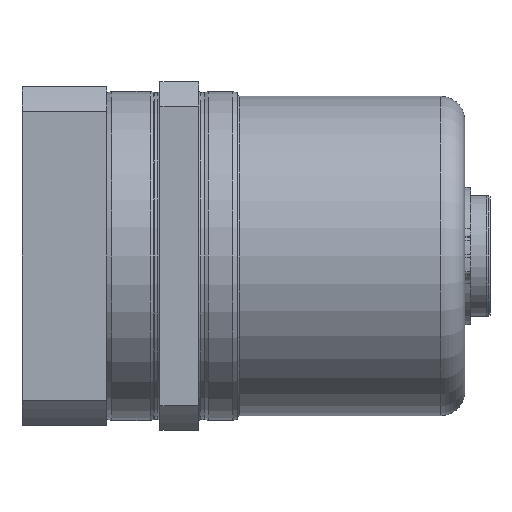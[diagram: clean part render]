
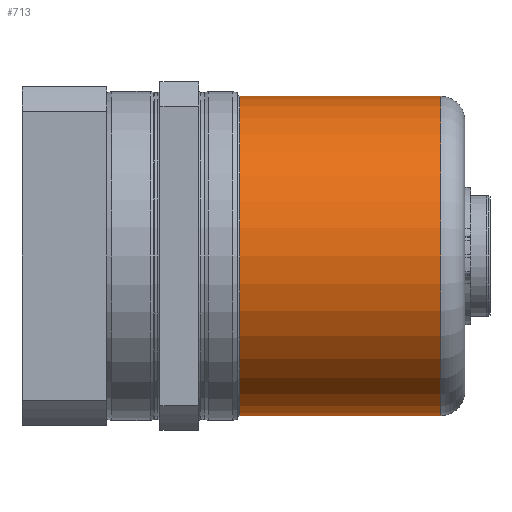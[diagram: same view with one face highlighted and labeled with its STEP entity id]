
A CAD part, front view. The second image highlights one B-rep face of the part: STEP entity #713.
In plain terms, the highlighted cylindrical face has radius 33 mm (diameter 66 mm), a partial arc.
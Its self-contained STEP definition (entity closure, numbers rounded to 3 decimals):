
#289 = CARTESIAN_POINT ( 'NONE',  ( 27., 0., 0. ) ) ;
#713 = ADVANCED_FACE ( 'NONE', ( #11537 ), #11611, .T. ) ;
#872 = LINE ( 'NONE', #1001, #12525 ) ;
#1001 = CARTESIAN_POINT ( 'NONE',  ( 27., 0., -33. ) ) ;
#1092 = EDGE_CURVE ( 'NONE', #7824, #3430, #872, .T. ) ;
#1252 = ORIENTED_EDGE ( 'NONE', *, *, #7432, .T. ) ;
#1569 = VERTEX_POINT ( 'NONE', #12391 ) ;
#2462 = ORIENTED_EDGE ( 'NONE', *, *, #1092, .T. ) ;
#3284 = DIRECTION ( 'NONE',  ( 1., 0., 0. ) ) ;
#3430 = VERTEX_POINT ( 'NONE', #4127 ) ;
#3984 = EDGE_CURVE ( 'NONE', #1569, #11712, #5157, .T. ) ;
#4101 = CARTESIAN_POINT ( 'NONE',  ( 27.5, 0., 0. ) ) ;
#4127 = CARTESIAN_POINT ( 'NONE',  ( 69., 0., -33. ) ) ;
#4190 = EDGE_LOOP ( 'NONE', ( #8359, #7603, #2462, #1252 ) ) ;
#4226 = DIRECTION ( 'NONE',  ( 1., 0., 0. ) ) ;
#5157 = LINE ( 'NONE', #9095, #6005 ) ;
#5676 = DIRECTION ( 'NONE',  ( 1., 0., 0. ) ) ;
#5703 = AXIS2_PLACEMENT_3D ( 'NONE', #4101, #4226, #5916 ) ;
#5778 = AXIS2_PLACEMENT_3D ( 'NONE', #289, #3284, #6989 ) ;
#5916 = DIRECTION ( 'NONE',  ( 0., 0., -1. ) ) ;
#6005 = VECTOR ( 'NONE', #8899, 1000. ) ;
#6459 = CARTESIAN_POINT ( 'NONE',  ( 27.5, 0., -33. ) ) ;
#6989 = DIRECTION ( 'NONE',  ( 0., 0., -1. ) ) ;
#7432 = EDGE_CURVE ( 'NONE', #3430, #11712, #12214, .T. ) ;
#7603 = ORIENTED_EDGE ( 'NONE', *, *, #7693, .T. ) ;
#7693 = EDGE_CURVE ( 'NONE', #1569, #7824, #8558, .T. ) ;
#7824 = VERTEX_POINT ( 'NONE', #6459 ) ;
#7897 = CARTESIAN_POINT ( 'NONE',  ( 69., 0., 33. ) ) ;
#8359 = ORIENTED_EDGE ( 'NONE', *, *, #3984, .F. ) ;
#8558 = CIRCLE ( 'NONE', #5703, 33. ) ;
#8899 = DIRECTION ( 'NONE',  ( 1., 0., 0. ) ) ;
#9095 = CARTESIAN_POINT ( 'NONE',  ( 27., 0., 33. ) ) ;
#9928 = DIRECTION ( 'NONE',  ( -1., 0., 0. ) ) ;
#11537 = FACE_OUTER_BOUND ( 'NONE', #4190, .T. ) ;
#11610 = AXIS2_PLACEMENT_3D ( 'NONE', #12046, #9928, #11838 ) ;
#11611 = CYLINDRICAL_SURFACE ( 'NONE', #5778, 33. ) ;
#11712 = VERTEX_POINT ( 'NONE', #7897 ) ;
#11838 = DIRECTION ( 'NONE',  ( 0., 0., -1. ) ) ;
#12046 = CARTESIAN_POINT ( 'NONE',  ( 69., 0., 0. ) ) ;
#12214 = CIRCLE ( 'NONE', #11610, 33. ) ;
#12391 = CARTESIAN_POINT ( 'NONE',  ( 27.5, 0., 33. ) ) ;
#12525 = VECTOR ( 'NONE', #5676, 1000. ) ;
